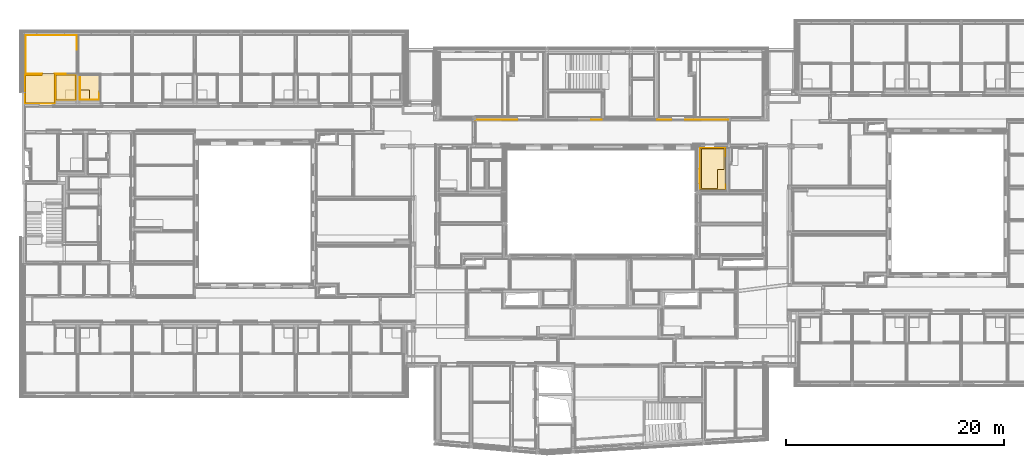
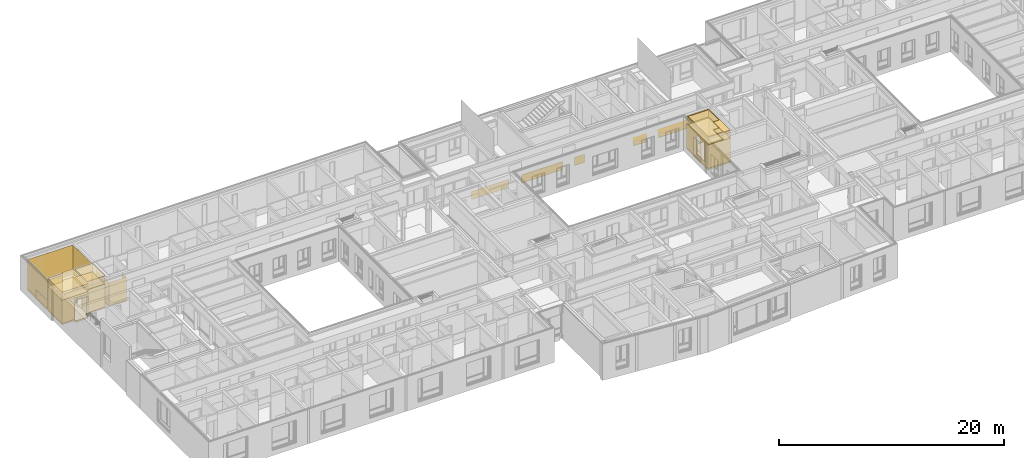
# One storey, part 175 of 222: 30 coverings.
"""IFC4 building model written with IfcOpenShell, lengths in metres."""

from ifc_helpers import new_model, entity, si_unit, converted_unit, derived_unit, frame, frame_2d, origin, origin_with_axes, place, context, subcontext, project, spatial, polyline, rectangle, outline, extrude, material, layer, layer_set, layer_usage, element, save


model = new_model("IFC4")

# Units and contexts
model_context = context("Model", 3, precision=1e-05, world=origin())
body_context = subcontext(model_context, "Body", "Model", "MODEL_VIEW")
ifc_project = project(units=[si_unit("LENGTHUNIT", "METRE"), si_unit("AREAUNIT", "SQUARE_METRE"), si_unit("VOLUMEUNIT", "CUBIC_METRE"), si_unit("MASSUNIT", "GRAM", prefix="KILO"), converted_unit("PLANEANGLEUNIT", "DEGREE", entity("IfcPlaneAngleMeasure", 0.0174532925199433), si_unit("PLANEANGLEUNIT", "RADIAN"), dimensions=[0, 0, 0, 0, 0, 0, 0]), derived_unit("THERMALTRANSMITTANCEUNIT", [(si_unit("POWERUNIT", "WATT"), 1), (si_unit("THERMODYNAMICTEMPERATUREUNIT", "KELVIN"), -1), (si_unit("LENGTHUNIT", "METRE"), -2)]), derived_unit("VOLUMETRICFLOWRATEUNIT", [(si_unit("LENGTHUNIT", "METRE"), 3), (converted_unit("TIMEUNIT", "hour", entity("IfcTimeMeasure", 3600.0), si_unit("TIMEUNIT", "SECOND"), dimensions=[0, 0, 1, 0, 0, 0, 0]), -1), (si_unit("LENGTHUNIT", "METRE"), -1)])], contexts=[model_context])

# Site, building, storey, space
site_placement = place(None, origin())
site = spatial("IfcSite", under=ifc_project, at=site_placement, Name="Psychiatrie Neubau Wunstorf", CompositionType="ELEMENT")
building_placement = place(site_placement, origin())
building = spatial("IfcBuilding", under=site, at=building_placement, Name="Neubau H2 Stationsgebäude", CompositionType="ELEMENT")
storey_placement = place(building_placement, frame((0.0, 0.0, 3.6)))
storey = spatial("IfcBuildingStorey", under=building, at=storey_placement, Name="H2 Ebene +1", CompositionType="ELEMENT", Elevation=3.6)
space_1_placement = place(storey_placement, frame((41.4405, 20.5859980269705, 0.0)))
space_1 = spatial("IfcSpace", under=storey, at=space_1_placement, Name="WUN-H2-E01-F08", CompositionType="ELEMENT")

# Coverings
ifc_material_1 = material(Name="84")
ifc_layer_1 = layer(ifc_material_1, 0.001)
ifc_layer_set_1 = layer_set([ifc_layer_1])
ifc_layer_usage_1 = layer_usage(ifc_layer_set_1, "AXIS3", "POSITIVE", 0.0)
covering_1_placement = place(space_1_placement, frame((0.0, 2.27800101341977, 0.1)))
element("IfcCovering", 1, at=covering_1_placement, inside=space_1, material=ifc_layer_usage_1, Name="Acrovyn", PredefinedType="CLADDING", context=body_context, shape_type="SweptSolid", body=[
    extrude(rectangle(XDim=0.9, YDim=3.86450000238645, at=frame_2d((1.93225000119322, 0.45), x_axis=(0.0, 1.0))), frame((3.86450000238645, 1.59274277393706e-07, 0.9), z_axis=(4.12147178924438e-08, -0.999999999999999, 7.98021178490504e-24), x_axis=(-0.999999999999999, -4.12147178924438e-08, 0.0)), (0.0, 0.0, 1.0), 0.001),
    extrude(rectangle(XDim=0.9, YDim=4.22499999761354, at=frame_2d((-2.11249999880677, -0.45), x_axis=(0.0, -1.0))), frame((5.12450000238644, 2.11204824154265e-07, 0.0), z_axis=(4.12147196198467e-08, -0.999999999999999, -7.29929668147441e-24), x_axis=(-0.999999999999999, -4.12147196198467e-08, 0.0)), (0.0, 0.0, 1.0), 0.001),
    extrude(rectangle(XDim=0.9, YDim=1.0, at=frame_2d((-0.5, -0.45), x_axis=(0.0, -1.0))), frame((10.6095, 4.37267561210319e-07, 0.0), z_axis=(4.12147182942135e-08, -0.999999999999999, 2.02109933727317e-15), x_axis=(-0.999999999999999, -4.12147182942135e-08, 0.0)), (0.0, 0.0, 1.0), 0.001),
    extrude(rectangle(XDim=0.9, YDim=3.95349999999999, at=frame_2d((1.97674999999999, 0.45), x_axis=(0.0, 1.0))), frame((23.198, 9.56099054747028e-07, 0.9), z_axis=(4.1214718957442e-08, -0.999999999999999, 2.02109933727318e-15), x_axis=(-0.999999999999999, -4.1214718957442e-08, 0.0)), (0.0, 0.0, 1.0), 0.001),
    extrude(rectangle(XDim=0.9, YDim=1.32500000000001, at=frame_2d((0.662500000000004, 0.45), x_axis=(0.0, 1.0))), frame((17.9845, 7.41226111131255e-07, 0.9), z_axis=(4.12147195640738e-08, -0.999999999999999, -2.90938947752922e-24), x_axis=(-0.999999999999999, -4.12147195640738e-08, 0.0)), (0.0, 0.0, 1.0), 0.001),
])
ifc_material_2 = material(Name="97")
ifc_layer_2 = layer(ifc_material_2, 0.001)
ifc_layer_set_2 = layer_set([ifc_layer_2])
ifc_layer_usage_2 = layer_usage(ifc_layer_set_2, "AXIS3", "POSITIVE", 0.0)
covering_2_placement = place(space_1_placement, frame((16.6595, 2.278001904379, 0.8)))
element("IfcCovering", 2, at=covering_2_placement, inside=space_1, material=ifc_layer_usage_2, Name="Handlauf", PredefinedType="CLADDING", context=body_context, shape_type="SweptSolid", body=[
    extrude(rectangle(XDim=3.9535, YDim=0.1, at=frame_2d((-1.97675, 0.05), x_axis=(-1.0, 0.0))), frame((2.585, 2.77241852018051e-08, 0.1), z_axis=(-7.01256739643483e-09, -1.0, 0.0), x_axis=(-1.0, 7.01256739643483e-09, 0.0)), (0.0, 0.0, 1.0), 0.001),
    extrude(rectangle(XDim=0.1, YDim=1.325, at=frame_2d((0.6625, 0.05), x_axis=(0.0, 1.0))), frame((1.325, 3.65600244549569e-08, 0.1), z_axis=(-7.01256794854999e-09, -1.0, 0.0), x_axis=(-1.0, 7.01256794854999e-09, 0.0)), (0.0, 0.0, 1.0), 0.001),
])

# Space
space_2_placement = place(storey_placement, frame((0.208999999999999, 24.3895, 0.0)))
space_2 = spatial("IfcSpace", under=storey, at=space_2_placement, Name="WUN-H2-E01-041", CompositionType="ELEMENT")

# Coverings
ifc_material_3 = material(Name="84")
ifc_layer_3 = layer(ifc_material_3, 0.001)
ifc_layer_set_3 = layer_set([ifc_layer_3])
ifc_layer_usage_3 = layer_usage(ifc_layer_set_3, "AXIS3", "POSITIVE", 0.0)
covering_3_placement = place(space_2_placement, frame((0.0350000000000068, 2.7, 0.1)))
element("IfcCovering", 3, at=covering_3_placement, inside=space_2, material=ifc_layer_usage_3, Name="Acrovyn", PredefinedType="CLADDING", context=body_context, shape_type="SweptSolid", body=[
    extrude(rectangle(XDim=0.9, YDim=0.8, at=frame_2d((-0.4, -0.45), x_axis=(0.0, -1.0))), frame((0.8, 0.0, 0.0), z_axis=(0.0, 1.0, 0.0), x_axis=(1.0, 0.0, 0.0)), (0.0, 0.0, 1.0), 0.001),
    extrude(rectangle(XDim=0.9, YDim=1.99650366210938, at=frame_2d((-0.998251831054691, -0.45), x_axis=(0.0, -1.0))), frame((0.0, 0.0, 0.0), z_axis=(1.0, 1.35524256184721e-14, 0.0), x_axis=(1.35524256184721e-14, -1.0, 0.0)), (0.0, 0.0, 1.0), 0.001),
])
ifc_material_4 = material(Name="Ku1")
ifc_layer_4 = layer(ifc_material_4, 0.15)
ifc_layer_set_4 = layer_set([ifc_layer_4])
ifc_layer_usage_4 = layer_usage(ifc_layer_set_4, "AXIS3", "POSITIVE", 0.0)
covering_4_placement = place(space_2_placement, frame((0.0, -0.271999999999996, 0.0)))
element("IfcCovering", 4, at=covering_4_placement, inside=space_2, material=ifc_layer_usage_4, Name="PVC Bahnenware Holzoptik", PredefinedType="FLOORING", context=body_context, shape_type="SweptSolid", body=[
    extrude(rectangle(XDim=0.271999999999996, YDim=1.26, at=frame_2d((0.63, -0.135999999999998), x_axis=(0.0, -1.0))), frame((1.256, 0.271999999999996, 0.0), z_axis=(0.0, 0.0, 1.0), x_axis=(1.0, 0.0, 0.0)), (0.0, 0.0, 1.0), 0.15),
    extrude(outline(polyline([(1.53499999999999, 2.54999999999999), (0.0, 2.54999999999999), (0.0, 0.0), (2.66599999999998, 0.0), (2.66600000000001, 2.7), (4.69100000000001, 2.7), (4.69099999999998, 6.2210036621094), (0.0349999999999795, 6.2210036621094), (0.0350000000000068, 2.7), (1.53500000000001, 2.7), (1.53499999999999, 2.54999999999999)])), frame((0.0, 0.271999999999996, 0.0), z_axis=(0.0, 0.0, 1.0), x_axis=(1.0, 0.0, 0.0)), (0.0, 0.0, 1.0), 0.15),
])
ifc_material_5 = material(Name="49")
ifc_layer_5 = layer(ifc_material_5, 0.001)
ifc_layer_set_5 = layer_set([ifc_layer_5])
ifc_layer_usage_5 = layer_usage(ifc_layer_set_5, "AXIS3", "POSITIVE", 0.0)
covering_5_placement = place(space_2_placement, frame((0.0, 0.0, 0.15)))
element("IfcCovering", 5, at=covering_5_placement, inside=space_2, material=ifc_layer_usage_5, PredefinedType="CLADDING", context=body_context, shape_type="SweptSolid", body=[
    extrude(outline(polyline([(0.8, 3.15), (1.5, 3.15), (1.5, 0.0), (0.0, 0.0), (0.0, 2.3), (0.8, 2.3), (0.8, 3.15)])), frame((0.0349999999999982, 2.7, 3.15), z_axis=(-7.59152697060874e-16, 1.0, 0.0), x_axis=(1.0, 7.59152697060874e-16, 0.0)), (0.0, 0.0, 1.0), 0.001),
    extrude(rectangle(XDim=0.150000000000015, YDim=3.15, at=frame_2d((0.0750000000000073, -1.575), x_axis=(1.0, 0.0))), frame((1.535, 2.7, 0.0), z_axis=(1.0, -1.24297609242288e-13, 0.0), x_axis=(-1.24297609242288e-13, -1.0, 0.0)), (0.0, 0.0, 1.0), 0.001),
    extrude(rectangle(XDim=1.53499999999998, YDim=3.15, at=frame_2d((0.767499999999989, -1.575), x_axis=(1.0, 0.0))), frame((1.53499999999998, 2.54999999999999, 0.0), z_axis=(2.37001876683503e-15, -1.0, 0.0), x_axis=(-1.0, -2.37001876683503e-15, 0.0)), (0.0, 0.0, 1.0), 0.001),
    extrude(rectangle(XDim=2.54999999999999, YDim=3.15, at=frame_2d((1.27499999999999, -1.575), x_axis=(1.0, 0.0))), frame((0.0, 2.54999999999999, 0.0), z_axis=(1.0, -3.38831359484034e-15, 0.0), x_axis=(-3.38831359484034e-15, -1.0, 0.0)), (0.0, 0.0, 1.0), 0.001),
    extrude(outline(polyline([(0.0, 3.15), (1.256, 3.15), (1.256, 0.89), (2.516, 0.89), (2.516, 3.15), (2.66599999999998, 3.15), (2.66599999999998, 0.0), (0.0, 0.0), (0.0, 3.15)])), frame((0.0, 0.0, 3.15), z_axis=(-1.20104945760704e-15, 1.0, 2.68806307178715e-16), x_axis=(1.0, 1.20104945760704e-15, 0.0)), (0.0, 0.0, 1.0), 0.001),
    extrude(outline(polyline([(0.0, 3.15), (1.06499999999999, 3.15), (1.06499999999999, 0.89), (2.07499999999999, 0.89), (2.07499999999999, 3.15), (2.69999999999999, 3.15), (2.69999999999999, 0.0), (0.0, 0.0), (0.0, 3.15)])), frame((2.66599999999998, 0.0, 3.15), z_axis=(-1.0, 1.07114435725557e-14, 6.94194311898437e-16), x_axis=(1.07114435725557e-14, 1.0, 0.0)), (0.0, 0.0, 1.0), 0.001),
    extrude(outline(polyline([(0.0, 3.15), (1.22499999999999, 3.15), (1.22499999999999, 2.3), (2.02499999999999, 2.3), (2.02499999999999, 0.0), (0.0, 0.0), (0.0, 3.15)])), frame((2.666, 2.7, 3.15), z_axis=(0.0, 1.0, 0.0), x_axis=(1.0, 0.0, 0.0)), (0.0, 0.0, 1.0), 0.001),
    extrude(outline(polyline([(1.99650366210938, 3.15), (3.5210036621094, 3.15), (3.5210036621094, 0.0), (0.0, 0.0), (0.0, 2.3), (1.99650366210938, 2.3), (1.99650366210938, 3.15)])), frame((4.691, 2.7, 3.15), z_axis=(-1.0, -8.60060974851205e-15, 9.61433958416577e-16), x_axis=(-8.60060974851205e-15, 1.0, 0.0)), (0.0, 0.0, 1.0), 0.001),
    extrude(rectangle(XDim=4.656, YDim=3.15, at=frame_2d((2.328, -1.575), x_axis=(1.0, 0.0))), frame((4.69099999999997, 6.2210036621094, 0.0), z_axis=(0.0, -1.0, 0.0), x_axis=(-1.0, 0.0, 0.0)), (0.0, 0.0, 1.0), 0.001),
    extrude(outline(polyline([(0.0, 3.15), (1.52450000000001, 3.15), (1.52450000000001, 2.3), (3.52100366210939, 2.3), (3.52100366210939, 0.0), (0.0, 0.0), (0.0, 3.15)])), frame((0.0349999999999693, 6.2210036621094, 3.15), z_axis=(1.0, 8.68085267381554e-15, -1.02163707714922e-15), x_axis=(8.68085267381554e-15, -1.0, 0.0)), (0.0, 0.0, 1.0), 0.001),
])
ifc_material_6 = material()
ifc_layer_6 = layer(ifc_material_6, 0.036)
ifc_layer_set_6 = layer_set([ifc_layer_6])
ifc_layer_usage_6 = layer_usage(ifc_layer_set_6, "AXIS3", "POSITIVE", 0.0)
covering_6_placement = place(space_2_placement, frame((0.0, 0.0, 3.55)))
element("IfcCovering", 6, at=covering_6_placement, inside=space_2, material=ifc_layer_usage_6, Name="Gipsfaserplatten 2-lagig (BSK)", PredefinedType="CEILING", context=body_context, shape_type="SweptSolid", body=[
    extrude(outline(polyline([(2.66600000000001, 0.0), (2.66599999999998, 2.69999999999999), (0.0, 2.7), (0.0, 0.150000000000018), (1.53499999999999, 0.150000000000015), (1.53500000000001, 0.0), (2.66600000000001, 0.0)])), frame((0.0, 2.7, 0.0), z_axis=(0.0, 0.0, -1.0), x_axis=(1.0, 0.0, 0.0)), (0.0, 0.0, 1.0), 0.036),
])
ifc_material_7 = material(Name="Installationshöhe")
ifc_layer_7 = layer(ifc_material_7, 0.764)
ifc_layer_set_7 = layer_set([ifc_layer_7])
ifc_layer_usage_7 = layer_usage(ifc_layer_set_7, "AXIS3", "POSITIVE", 0.0)
covering_7_placement = place(space_2_placement, frame((0.0, 0.0, 3.514)))
element("IfcCovering", 7, at=covering_7_placement, inside=space_2, material=ifc_layer_usage_7, Name="Gipsfaserplatten 2-lagig (BSK)", PredefinedType="CEILING", context=body_context, shape_type="SweptSolid", body=[
    extrude(outline(polyline([(2.66600000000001, 0.0), (2.66599999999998, 2.69999999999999), (0.0, 2.7), (0.0, 0.150000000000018), (1.53499999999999, 0.150000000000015), (1.53500000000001, 0.0), (2.66600000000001, 0.0)])), frame((0.0, 2.7, 0.0), z_axis=(0.0, 0.0, -1.0), x_axis=(1.0, 0.0, 0.0)), (0.0, 0.0, 1.0), 0.764),
])
ifc_material_8 = material(Name="A1")
ifc_layer_8 = layer(ifc_material_8, 0.1)
ifc_layer_set_8 = layer_set([ifc_layer_8])
ifc_layer_usage_8 = layer_usage(ifc_layer_set_8, "AXIS3", "POSITIVE", 0.0)
covering_8_placement = place(space_2_placement, frame((0.0, 0.0, 2.75)))
element("IfcCovering", 8, at=covering_8_placement, inside=space_2, material=ifc_layer_usage_8, Name="Gipsfaserplatten 2-lagig (BSK)", PredefinedType="CEILING", context=body_context, shape_type="SweptSolid", body=[
    extrude(outline(polyline([(2.66600000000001, 0.0), (2.66599999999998, 2.69999999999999), (0.0, 2.7), (0.0, 0.150000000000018), (1.53499999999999, 0.150000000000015), (1.53500000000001, 0.0), (2.66600000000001, 0.0)])), frame((0.0, 2.7, 0.0), z_axis=(0.0, 0.0, -1.0), x_axis=(1.0, 0.0, 0.0)), (0.0, 0.0, 1.0), 0.1),
])
ifc_material_9 = material(Name="D1")
ifc_layer_9 = layer(ifc_material_9, 0.001)
ifc_layer_set_9 = layer_set([ifc_layer_9])
ifc_layer_usage_9 = layer_usage(ifc_layer_set_9, "AXIS3", "POSITIVE", 0.0)
covering_9_placement = place(space_2_placement, frame((0.0, 0.0, 2.65)))
element("IfcCovering", 9, at=covering_9_placement, inside=space_2, material=ifc_layer_usage_9, Name="Gipsfaserplatten 2-lagig (BSK)", PredefinedType="CEILING", context=body_context, shape_type="SweptSolid", body=[
    extrude(outline(polyline([(2.66600000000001, 0.0), (2.66599999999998, 2.69999999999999), (0.0, 2.7), (0.0, 0.150000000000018), (1.53499999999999, 0.150000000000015), (1.53500000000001, 0.0), (2.66600000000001, 0.0)])), frame((0.0, 2.7, 0.0), z_axis=(0.0, 0.0, -1.0), x_axis=(1.0, 0.0, 0.0)), (0.0, 0.0, 1.0), 0.001),
])

# Space
space_3_placement = place(storey_placement, frame((3.00000000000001, 24.6995, 0.0)))
space_3 = spatial("IfcSpace", under=storey, at=space_3_placement, Name="WUN-H2-E01-041a", CompositionType="ELEMENT")

# Coverings
ifc_material_10 = material(Name="Fl2")
ifc_layer_10 = layer(ifc_material_10, 0.15)
ifc_layer_set_10 = layer_set([ifc_layer_10])
ifc_layer_usage_10 = layer_usage(ifc_layer_set_10, "AXIS3", "POSITIVE", 0.0)
covering_10_placement = place(space_3_placement, frame((0.900000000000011, 0.0, 0.0)))
element("IfcCovering", 10, at=covering_10_placement, inside=space_3, material=ifc_layer_usage_10, Name="Fliesen Mosaik", PredefinedType="FLOORING", context=body_context, shape_type="SweptSolid", body=[
    extrude(rectangle(XDim=0.9, YDim=0.9, at=frame_2d((-0.45, 0.45), x_axis=(0.0, 1.0))), frame((0.9, 0.0, 0.0), z_axis=(0.0, 0.0, 1.0), x_axis=(1.0, 0.0, 0.0)), (0.0, 0.0, 1.0), 0.15),
])
ifc_material_11 = material(Name="Fl1")
ifc_layer_11 = layer(ifc_material_11, 0.15)
ifc_layer_set_11 = layer_set([ifc_layer_11])
ifc_layer_usage_11 = layer_usage(ifc_layer_set_11, "AXIS3", "POSITIVE", 0.0)
covering_11_placement = place(space_3_placement, frame((-0.125, 0.0, 0.0)))
element("IfcCovering", 11, at=covering_11_placement, inside=space_3, material=ifc_layer_usage_11, Name="Fliesen", PredefinedType="FLOORING", context=body_context, shape_type="SweptSolid", body=[
    extrude(rectangle(XDim=0.125, YDim=1.01, at=frame_2d((0.0625000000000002, 0.505), x_axis=(1.0, 0.0))), frame((0.0, 0.754999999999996, 0.0), z_axis=(0.0, 0.0, 1.0), x_axis=(1.0, 0.0, 0.0)), (0.0, 0.0, 1.0), 0.15),
    extrude(outline(polyline([(0.900000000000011, 0.9), (1.80000000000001, 0.9), (1.80000000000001, 2.265), (0.0, 2.265), (0.0, 0.0), (0.900000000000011, 0.0), (0.900000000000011, 0.9)])), frame((0.125, 0.0, 0.0), z_axis=(0.0, 0.0, 1.0), x_axis=(1.0, 0.0, 0.0)), (0.0, 0.0, 1.0), 0.15),
])
ifc_material_12 = material(Name="50")
ifc_layer_12 = layer(ifc_material_12, 0.001)
ifc_layer_set_12 = layer_set([ifc_layer_12])
ifc_layer_usage_12 = layer_usage(ifc_layer_set_12, "AXIS3", "POSITIVE", 0.0)
covering_12_placement = place(space_3_placement, frame((0.0, 0.739999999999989, 0.15)))
element("IfcCovering", 12, at=covering_12_placement, inside=space_3, material=ifc_layer_usage_12, PredefinedType="CLADDING", context=body_context, shape_type="SweptSolid", body=[
    extrude(rectangle(XDim=1.80000000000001, YDim=2.5, at=frame_2d((0.900000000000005, -1.25), x_axis=(1.0, 0.0))), frame((1.80000000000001, 1.52500000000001, 0.0), z_axis=(0.0, -1.0, 0.0), x_axis=(-1.0, 0.0, 0.0)), (0.0, 0.0, 1.0), 0.001),
    extrude(outline(polyline([(0.0, 2.5), (0.500000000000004, 2.5), (0.500000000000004, 0.24), (1.51, 0.24), (1.51, 2.5), (1.52500000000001, 2.5), (1.52500000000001, 0.0), (0.0, 0.0), (0.0, 2.5)])), frame((0.0, 1.52500000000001, 2.5), z_axis=(1.0, -1.05016044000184e-16, 4.6931948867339e-17), x_axis=(-1.05016044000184e-16, -1.0, 0.0)), (0.0, 0.0, 1.0), 0.001),
])
ifc_material_13 = material()
ifc_layer_13 = layer(ifc_material_13, 0.036)
ifc_layer_set_13 = layer_set([ifc_layer_13])
ifc_layer_usage_13 = layer_usage(ifc_layer_set_13, "AXIS3", "POSITIVE", 0.0)
covering_13_placement = place(space_3_placement, frame((0.0, 0.0, 3.55)))
element("IfcCovering", 13, at=covering_13_placement, inside=space_3, material=ifc_layer_usage_13, Name="Gipsfaserplatten 2-lagig (BSK)", PredefinedType="CEILING", context=body_context, shape_type="SweptSolid", body=[
    extrude(rectangle(XDim=1.80000000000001, YDim=2.265, at=frame_2d((-0.900000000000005, -1.1325), x_axis=(-1.0, 0.0))), frame((1.80000000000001, 0.0, 0.0), z_axis=(0.0, 0.0, -1.0), x_axis=(1.0, 0.0, 0.0)), (0.0, 0.0, 1.0), 0.036),
])
ifc_material_14 = material(Name="Installationshöhe")
ifc_layer_14 = layer(ifc_material_14, 0.764)
ifc_layer_set_14 = layer_set([ifc_layer_14])
ifc_layer_usage_14 = layer_usage(ifc_layer_set_14, "AXIS3", "POSITIVE", 0.0)
covering_14_placement = place(space_3_placement, frame((0.0, 0.0, 3.514)))
element("IfcCovering", 14, at=covering_14_placement, inside=space_3, material=ifc_layer_usage_14, Name="Gipsfaserplatten 2-lagig (BSK)", PredefinedType="CEILING", context=body_context, shape_type="SweptSolid", body=[
    extrude(rectangle(XDim=1.80000000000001, YDim=2.265, at=frame_2d((-0.900000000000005, -1.1325), x_axis=(-1.0, 0.0))), frame((1.80000000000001, 0.0, 0.0), z_axis=(0.0, 0.0, -1.0), x_axis=(1.0, 0.0, 0.0)), (0.0, 0.0, 1.0), 0.764),
])
ifc_material_15 = material(Name="B")
ifc_layer_15 = layer(ifc_material_15, 0.1)
ifc_layer_set_15 = layer_set([ifc_layer_15])
ifc_layer_usage_15 = layer_usage(ifc_layer_set_15, "AXIS3", "POSITIVE", 0.0)
covering_15_placement = place(space_3_placement, frame((0.0, 0.0, 2.75)))
element("IfcCovering", 15, at=covering_15_placement, inside=space_3, material=ifc_layer_usage_15, Name="Gipskarton, imprägniert", PredefinedType="CEILING", context=body_context, shape_type="SweptSolid", body=[
    extrude(rectangle(XDim=1.80000000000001, YDim=2.265, at=frame_2d((-0.900000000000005, -1.1325), x_axis=(-1.0, 0.0))), frame((1.80000000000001, 0.0, 0.0), z_axis=(0.0, 0.0, -1.0), x_axis=(1.0, 0.0, 0.0)), (0.0, 0.0, 1.0), 0.1),
])
ifc_material_16 = material(Name="D1")
ifc_layer_16 = layer(ifc_material_16, 0.001)
ifc_layer_set_16 = layer_set([ifc_layer_16])
ifc_layer_usage_16 = layer_usage(ifc_layer_set_16, "AXIS3", "POSITIVE", 0.0)
covering_16_placement = place(space_3_placement, frame((0.0, 0.0, 2.65)))
element("IfcCovering", 16, at=covering_16_placement, inside=space_3, material=ifc_layer_usage_16, Name="Gipsfaserplatten 2-lagig (BSK)", PredefinedType="CEILING", context=body_context, shape_type="SweptSolid", body=[
    extrude(rectangle(XDim=1.80000000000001, YDim=2.265, at=frame_2d((-0.900000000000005, -1.1325), x_axis=(-1.0, 0.0))), frame((1.80000000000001, 0.0, 0.0), z_axis=(0.0, 0.0, -1.0), x_axis=(1.0, 0.0, 0.0)), (0.0, 0.0, 1.0), 0.001),
])
ifc_material_17 = material(Name="68")
ifc_layer_17 = layer(ifc_material_17, 0.01)
ifc_layer_set_17 = layer_set([ifc_layer_17])
ifc_layer_usage_17 = layer_usage(ifc_layer_set_17, "AXIS3", "POSITIVE", 0.0)
covering_17_placement = place(space_3_placement, frame((0.0, 0.0, 0.15)))
element("IfcCovering", 17, at=covering_17_placement, inside=space_3, material=ifc_layer_usage_17, Name="a-sh Wandbelag", PredefinedType="CLADDING", context=body_context, shape_type="SweptSolid", body=[
    extrude(rectangle(XDim=0.739999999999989, YDim=2.5, at=frame_2d((0.369999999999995, -1.25), x_axis=(1.0, 0.0))), frame((0.0, 0.739999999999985, 0.0), z_axis=(1.0, 1.22904689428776e-15, 0.0), x_axis=(1.22904689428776e-15, -1.0, 0.0)), (0.0, 0.0, 1.0), 0.01),
    extrude(rectangle(XDim=2.265, YDim=2.5, at=frame_2d((1.1325, -1.25), x_axis=(1.0, 0.0))), frame((1.8, 0.0, 0.0), z_axis=(-1.0, 7.22777246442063e-15, 0.0), x_axis=(7.22777246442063e-15, 1.0, 0.0)), (0.0, 0.0, 1.0), 0.01),
    extrude(rectangle(XDim=1.79999999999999, YDim=2.5, at=frame_2d((0.899999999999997, -1.25), x_axis=(1.0, 0.0))), frame((0.0, 0.0, 0.0), z_axis=(-2.02109933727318e-15, 1.0, 0.0), x_axis=(1.0, 2.02109933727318e-15, 0.0)), (0.0, 0.0, 1.0), 0.01),
])

# Space
space_4_placement = place(storey_placement, frame((5.2, 24.6995, 0.0)))
space_4 = spatial("IfcSpace", under=storey, at=space_4_placement, Name="WUN-H2-E01-042a", CompositionType="ELEMENT")

# Coverings
ifc_material_18 = material(Name="Fl2")
ifc_layer_18 = layer(ifc_material_18, 0.15)
ifc_layer_set_18 = layer_set([ifc_layer_18])
ifc_layer_usage_18 = layer_usage(ifc_layer_set_18, "AXIS3", "POSITIVE", 0.0)
covering_18_placement = place(space_4_placement, origin())
element("IfcCovering", 18, at=covering_18_placement, inside=space_4, material=ifc_layer_usage_18, Name="Fliesen Mosaik", PredefinedType="FLOORING", context=body_context, shape_type="SweptSolid", body=[
    extrude(rectangle(XDim=0.9, YDim=0.9, at=frame_2d((0.45, 0.45), x_axis=(1.0, 0.0))), origin_with_axes(), (0.0, 0.0, 1.0), 0.15),
])
ifc_material_19 = material(Name="68")
ifc_layer_19 = layer(ifc_material_19, 0.01)
ifc_layer_set_19 = layer_set([ifc_layer_19])
ifc_layer_usage_19 = layer_usage(ifc_layer_set_19, "AXIS3", "POSITIVE", 0.0)
covering_19_placement = place(space_4_placement, frame((0.0, 0.0, 0.15)))
element("IfcCovering", 19, at=covering_19_placement, inside=space_4, material=ifc_layer_usage_19, Name="a-sh Wandbelag", PredefinedType="CLADDING", context=body_context, shape_type="SweptSolid", body=[
    extrude(rectangle(XDim=2.265, YDim=2.5, at=frame_2d((1.1325, -1.25), x_axis=(1.0, 0.0))), frame((0.0, 2.265, 0.0), z_axis=(1.0, 0.0, 0.0), x_axis=(0.0, -1.0, 0.0)), (0.0, 0.0, 1.0), 0.01),
    extrude(rectangle(XDim=0.739999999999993, YDim=2.5, at=frame_2d((0.369999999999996, -1.25), x_axis=(1.0, 0.0))), frame((1.8, 0.0, 0.0), z_axis=(-1.0, 3.68714068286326e-15, 0.0), x_axis=(3.68714068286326e-15, 1.0, 0.0)), (0.0, 0.0, 1.0), 0.01),
    extrude(rectangle(XDim=1.8, YDim=2.5, at=frame_2d((0.9, -1.25), x_axis=(1.0, 0.0))), frame((0.0, 0.0, 0.0), z_axis=(0.0, 1.0, 0.0), x_axis=(1.0, 0.0, 0.0)), (0.0, 0.0, 1.0), 0.01),
])
ifc_material_20 = material(Name="Fl1")
ifc_layer_20 = layer(ifc_material_20, 0.15)
ifc_layer_set_20 = layer_set([ifc_layer_20])
ifc_layer_usage_20 = layer_usage(ifc_layer_set_20, "AXIS3", "POSITIVE", 0.0)
covering_20_placement = place(space_4_placement, origin())
element("IfcCovering", 20, at=covering_20_placement, inside=space_4, material=ifc_layer_usage_20, Name="Fliesen", PredefinedType="FLOORING", context=body_context, shape_type="SweptSolid", body=[
    extrude(rectangle(XDim=0.125, YDim=1.01, at=frame_2d((-0.0625000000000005, -0.505), x_axis=(-1.0, 0.0))), frame((1.92500000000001, 1.765, 0.0), z_axis=(0.0, 0.0, 1.0), x_axis=(1.0, 0.0, 0.0)), (0.0, 0.0, 1.0), 0.15),
    extrude(outline(polyline([(0.9, 0.0), (1.8, 0.0), (1.8, 2.265), (0.0, 2.265), (0.0, 0.9), (0.9, 0.9), (0.9, 0.0)])), origin_with_axes(), (0.0, 0.0, 1.0), 0.15),
])

# Space
space_5_placement = place(storey_placement, frame((62.0610000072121, 16.461000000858, 0.0)))
space_5 = spatial("IfcSpace", under=storey, at=space_5_placement, Name="WUN-H2-E01-051", CompositionType="ELEMENT")

# Coverings
ifc_material_21 = material(Name="Ku2")
ifc_layer_21 = layer(ifc_material_21, 0.15)
ifc_layer_set_21 = layer_set([ifc_layer_21])
ifc_layer_usage_21 = layer_usage(ifc_layer_set_21, "AXIS3", "POSITIVE", 0.0)
covering_21_placement = place(space_5_placement, origin())
element("IfcCovering", 21, at=covering_21_placement, inside=space_5, material=ifc_layer_usage_21, Name="PVC Bahnenware Uni", PredefinedType="FLOORING", context=body_context, shape_type="SweptSolid", body=[
    extrude(outline(polyline([(0.0, 0.0), (2.29899999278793, 0.0), (2.29899999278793, 3.81799817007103), (0.0, 3.81799815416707), (0.0, 0.0)])), origin_with_axes(), (0.0, 0.0, 1.0), 0.15),
])
ifc_material_22 = material()
ifc_layer_22 = layer(ifc_material_22, 0.036)
ifc_layer_set_22 = layer_set([ifc_layer_22])
ifc_layer_usage_22 = layer_usage(ifc_layer_set_22, "AXIS3", "POSITIVE", 0.0)
covering_22_placement = place(space_5_placement, frame((0.0, 0.0, 3.55)))
element("IfcCovering", 22, at=covering_22_placement, inside=space_5, material=ifc_layer_usage_22, Name="Gipsfaserplatten 2-lagig (BSK)", PredefinedType="CEILING", context=body_context, shape_type="SweptSolid", body=[
    extrude(outline(polyline([(2.29899999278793, 0.0), (2.29899999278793, 3.81799817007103), (0.0, 3.81799817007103), (0.0, 1.59039591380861e-08), (2.29899999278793, 0.0)]), holes=[polyline([(2.19899999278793, 0.100000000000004), (0.0999999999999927, 0.100000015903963), (0.0999999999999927, 3.71799817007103), (1.59899999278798, 3.71799817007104), (1.59899999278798, 1.97299815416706), (2.19899999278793, 1.97299815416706), (2.19899999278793, 0.100000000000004)])]), frame((0.0, 3.81799817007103, 0.0), z_axis=(0.0, 0.0, -1.0), x_axis=(1.0, 0.0, 0.0)), (0.0, 0.0, 1.0), 0.036),
])
ifc_material_23 = material(Name="Installationshöhe")
ifc_layer_23 = layer(ifc_material_23, 0.764)
ifc_layer_set_23 = layer_set([ifc_layer_23])
ifc_layer_usage_23 = layer_usage(ifc_layer_set_23, "AXIS3", "POSITIVE", 0.0)
covering_23_placement = place(space_5_placement, frame((0.0, 0.0, 3.514)))
element("IfcCovering", 23, at=covering_23_placement, inside=space_5, material=ifc_layer_usage_23, Name="Gipsfaserplatten 2-lagig (BSK)", PredefinedType="CEILING", context=body_context, shape_type="SweptSolid", body=[
    extrude(outline(polyline([(2.29899999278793, 0.0), (2.29899999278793, 3.81799817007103), (0.0, 3.81799817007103), (0.0, 1.59039591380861e-08), (2.29899999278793, 0.0)]), holes=[polyline([(2.19899999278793, 0.100000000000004), (0.0999999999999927, 0.100000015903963), (0.0999999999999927, 3.71799817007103), (1.59899999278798, 3.71799817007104), (1.59899999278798, 1.97299815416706), (2.19899999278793, 1.97299815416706), (2.19899999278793, 0.100000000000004)])]), frame((0.0, 3.81799817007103, 0.0), z_axis=(0.0, 0.0, -1.0), x_axis=(1.0, 0.0, 0.0)), (0.0, 0.0, 1.0), 0.764),
])
ifc_material_24 = material(Name="A1")
ifc_layer_24 = layer(ifc_material_24, 0.1)
ifc_layer_set_24 = layer_set([ifc_layer_24])
ifc_layer_usage_24 = layer_usage(ifc_layer_set_24, "AXIS3", "POSITIVE", 0.0)
covering_24_placement = place(space_5_placement, frame((0.0, 0.0, 2.75)))
element("IfcCovering", 24, at=covering_24_placement, inside=space_5, material=ifc_layer_usage_24, Name="Gipsfaserplatten 2-lagig (BSK)", PredefinedType="CEILING", context=body_context, shape_type="SweptSolid", body=[
    extrude(outline(polyline([(2.29899999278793, 0.0), (2.29899999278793, 3.81799817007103), (0.0, 3.81799817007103), (0.0, 1.59039591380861e-08), (2.29899999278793, 0.0)]), holes=[polyline([(2.19899999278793, 0.100000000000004), (0.0999999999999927, 0.100000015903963), (0.0999999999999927, 3.71799817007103), (1.59899999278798, 3.71799817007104), (1.59899999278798, 1.97299815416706), (2.19899999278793, 1.97299815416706), (2.19899999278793, 0.100000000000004)])]), frame((0.0, 3.81799817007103, 0.0), z_axis=(0.0, 0.0, -1.0), x_axis=(1.0, 0.0, 0.0)), (0.0, 0.0, 1.0), 0.1),
])
ifc_material_25 = material(Name="D1")
ifc_layer_25 = layer(ifc_material_25, 0.001)
ifc_layer_set_25 = layer_set([ifc_layer_25])
ifc_layer_usage_25 = layer_usage(ifc_layer_set_25, "AXIS3", "POSITIVE", 0.0)
covering_25_placement = place(space_5_placement, frame((0.0, 0.0, 2.65)))
element("IfcCovering", 25, at=covering_25_placement, inside=space_5, material=ifc_layer_usage_25, Name="Gipsfaserplatten 2-lagig (BSK)", PredefinedType="CEILING", context=body_context, shape_type="SweptSolid", body=[
    extrude(outline(polyline([(2.29899999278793, 0.0), (2.29899999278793, 3.81799817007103), (0.0, 3.81799817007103), (0.0, 1.59039591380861e-08), (2.29899999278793, 0.0)]), holes=[polyline([(2.19899999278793, 0.100000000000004), (0.0999999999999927, 0.100000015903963), (0.0999999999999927, 3.71799817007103), (1.59899999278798, 3.71799817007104), (1.59899999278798, 1.97299815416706), (2.19899999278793, 1.97299815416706), (2.19899999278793, 0.100000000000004)])]), frame((0.0, 3.81799817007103, 0.0), z_axis=(0.0, 0.0, -1.0), x_axis=(1.0, 0.0, 0.0)), (0.0, 0.0, 1.0), 0.001),
])
ifc_material_26 = material()
ifc_layer_26 = layer(ifc_material_26, 0.036)
ifc_layer_set_26 = layer_set([ifc_layer_26])
ifc_layer_usage_26 = layer_usage(ifc_layer_set_26, "AXIS3", "POSITIVE", 0.0)
covering_26_placement = place(space_5_placement, frame((0.0999999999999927, 0.0999999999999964, 3.55)))
element("IfcCovering", 26, at=covering_26_placement, inside=space_5, material=ifc_layer_usage_26, Name="Gipsfaserplatten 2-lagig (BSK)", PredefinedType="CEILING", context=body_context, shape_type="SweptSolid", body=[
    extrude(outline(polyline([(0.0, 3.61799817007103), (0.0, 1.59039591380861e-08), (2.09899999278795, 0.0), (2.09899999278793, 1.87299815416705), (1.49899999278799, 1.87299815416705), (1.49899999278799, 3.61799817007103), (0.0, 3.61799817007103)])), frame((0.0, 3.61799817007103, 0.0), z_axis=(0.0, 0.0, -1.0), x_axis=(1.0, 0.0, 0.0)), (0.0, 0.0, 1.0), 0.036),
])
ifc_material_27 = material(Name="Installationshöhe")
ifc_layer_27 = layer(ifc_material_27, 0.764)
ifc_layer_set_27 = layer_set([ifc_layer_27])
ifc_layer_usage_27 = layer_usage(ifc_layer_set_27, "AXIS3", "POSITIVE", 0.0)
covering_27_placement = place(space_5_placement, frame((0.0999999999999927, 0.0999999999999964, 3.514)))
element("IfcCovering", 27, at=covering_27_placement, inside=space_5, material=ifc_layer_usage_27, Name="Gipsfaserplatten 2-lagig (BSK)", PredefinedType="CEILING", context=body_context, shape_type="SweptSolid", body=[
    extrude(outline(polyline([(0.0, 3.61799817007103), (0.0, 1.59039591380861e-08), (2.09899999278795, 0.0), (2.09899999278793, 1.87299815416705), (1.49899999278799, 1.87299815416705), (1.49899999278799, 3.61799817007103), (0.0, 3.61799817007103)])), frame((0.0, 3.61799817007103, 0.0), z_axis=(0.0, 0.0, -1.0), x_axis=(1.0, 0.0, 0.0)), (0.0, 0.0, 1.0), 0.764),
])
ifc_material_28 = material(Name="A1")
ifc_layer_28 = layer(ifc_material_28, 0.1)
ifc_layer_set_28 = layer_set([ifc_layer_28])
ifc_layer_usage_28 = layer_usage(ifc_layer_set_28, "AXIS3", "POSITIVE", 0.0)
covering_28_placement = place(space_5_placement, frame((0.0999999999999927, 0.0999999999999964, 2.75)))
element("IfcCovering", 28, at=covering_28_placement, inside=space_5, material=ifc_layer_usage_28, Name="Gipsfaserplatten 2-lagig (BSK)", PredefinedType="CEILING", context=body_context, shape_type="SweptSolid", body=[
    extrude(outline(polyline([(0.0, 3.61799817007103), (0.0, 1.59039591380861e-08), (2.09899999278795, 0.0), (2.09899999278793, 1.87299815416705), (1.49899999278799, 1.87299815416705), (1.49899999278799, 3.61799817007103), (0.0, 3.61799817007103)])), frame((0.0, 3.61799817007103, 0.0), z_axis=(0.0, 0.0, -1.0), x_axis=(1.0, 0.0, 0.0)), (0.0, 0.0, 1.0), 0.1),
])
ifc_material_29 = material(Name="D1")
ifc_layer_29 = layer(ifc_material_29, 0.001)
ifc_layer_set_29 = layer_set([ifc_layer_29])
ifc_layer_usage_29 = layer_usage(ifc_layer_set_29, "AXIS3", "POSITIVE", 0.0)
covering_29_placement = place(space_5_placement, frame((0.0999999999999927, 0.0999999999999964, 2.65)))
element("IfcCovering", 29, at=covering_29_placement, inside=space_5, material=ifc_layer_usage_29, Name="Gipsfaserplatten 2-lagig (BSK)", PredefinedType="CEILING", context=body_context, shape_type="SweptSolid", body=[
    extrude(outline(polyline([(0.0, 3.61799817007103), (0.0, 1.59039591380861e-08), (2.09899999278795, 0.0), (2.09899999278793, 1.87299815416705), (1.49899999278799, 1.87299815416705), (1.49899999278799, 3.61799817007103), (0.0, 3.61799817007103)])), frame((0.0, 3.61799817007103, 0.0), z_axis=(0.0, 0.0, -1.0), x_axis=(1.0, 0.0, 0.0)), (0.0, 0.0, 1.0), 0.001),
])
ifc_material_30 = material(Name="50")
ifc_layer_30 = layer(ifc_material_30, 0.001)
ifc_layer_set_30 = layer_set([ifc_layer_30])
ifc_layer_usage_30 = layer_usage(ifc_layer_set_30, "AXIS3", "POSITIVE", 0.0)
covering_30_placement = place(space_5_placement, frame((-0.04, 0.0, 0.15)))
element("IfcCovering", 30, at=covering_30_placement, inside=space_5, material=ifc_layer_usage_30, PredefinedType="CLADDING", context=body_context, shape_type="SweptSolid", body=[
    extrude(outline(polyline([(0.0, 3.15), (0.899999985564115, 3.15), (0.899999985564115, 0.89), (1.90999998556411, 0.89), (1.90999998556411, 3.15), (2.29899999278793, 3.15), (2.29899999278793, 0.0), (0.0, 0.0), (0.0, 3.15)])), frame((2.33899999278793, 3.81799817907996, 3.15), z_axis=(5.95003010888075e-09, -1.0, 2.28170682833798e-09), x_axis=(-1.0, -5.95003010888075e-09, 0.0)), (0.0, 0.0, 1.0), 0.001),
    extrude(outline(polyline([(0.0, 3.15), (3.81799815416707, 3.15), (3.81799815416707, 0.0), (0.0, 0.0), (0.0, 3.15)]), holes=[polyline([(3.24900012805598, 2.75), (1.89900012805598, 2.75), (1.89900012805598, 0.635), (3.24900012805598, 0.635), (3.24900012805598, 2.75)])]), frame((0.0399999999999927, 3.81799815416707, 3.15), z_axis=(1.0, 0.0, 0.0), x_axis=(0.0, -1.0, 0.0)), (0.0, 0.0, 1.0), 0.001),
    extrude(rectangle(XDim=2.29899999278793, YDim=3.15, at=frame_2d((1.14949999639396, -1.575), x_axis=(1.0, 0.0))), frame((0.04, 0.0, 0.0), z_axis=(0.0, 1.0, 0.0), x_axis=(1.0, 0.0, 0.0)), (0.0, 0.0, 1.0), 0.001),
    extrude(rectangle(XDim=3.81799817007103, YDim=3.15, at=frame_2d((1.90899908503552, -1.575), x_axis=(1.0, 0.0))), frame((2.33899999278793, 0.0, 0.0), z_axis=(-1.0, 0.0, 0.0), x_axis=(0.0, 1.0, 0.0)), (0.0, 0.0, 1.0), 0.001),
    extrude(rectangle(XDim=0.0399999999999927, YDim=1.35, at=frame_2d((-0.0199999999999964, 0.675), x_axis=(-1.0, 0.0))), frame((0.0399999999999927, 1.91899802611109, 2.515), z_axis=(0.0, 0.0, -1.0), x_axis=(1.0, 0.0, 0.0)), (0.0, 0.0, 1.0), 0.001),
    extrude(rectangle(XDim=0.0399999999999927, YDim=2.115, at=frame_2d((0.0199999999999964, -1.0575), x_axis=(1.0, 0.0))), frame((0.0399999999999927, 1.91899802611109, 0.4), z_axis=(4.54747350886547e-14, -1.0, 8.60042271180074e-16), x_axis=(-1.0, -4.54747350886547e-14, 0.0)), (0.0, 0.0, 1.0), 0.001),
    extrude(rectangle(XDim=2.115, YDim=0.0399999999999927, at=frame_2d((-0.0199999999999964, -1.0575), x_axis=(0.0, -1.0))), frame((0.0399999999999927, 0.568998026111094, 0.4), z_axis=(0.0, 1.0, 0.0), x_axis=(1.0, 0.0, 0.0)), (0.0, 0.0, 1.0), 0.001),
])

save(model, "model.ifc")
